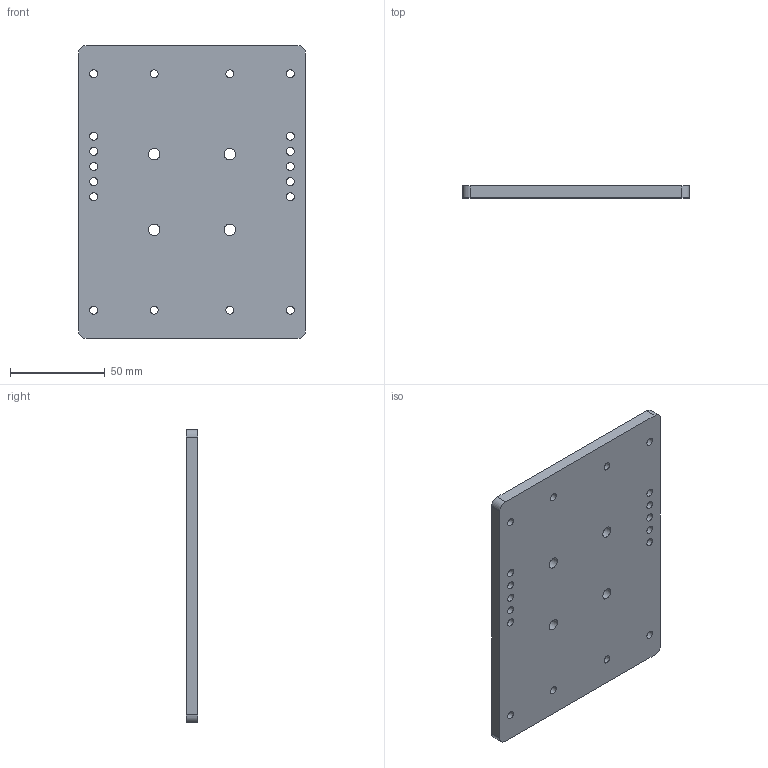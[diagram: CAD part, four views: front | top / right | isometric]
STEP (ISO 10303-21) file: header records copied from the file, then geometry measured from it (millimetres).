
FILE_DESCRIPTION(/* description */ (''),/* implementation_level */ '2;1');
FILE_NAME(/* name */ '/Users/davidflorian/Library/Mobile Documents/com~apple~CloudDocs/Vanderbilt/Papers/OTTO/Supplemental Material/3D-Printable-Components-STEP-Files/Floating-Head-Plate.step',/* time_stamp */ '2020-06-30T23:00:07-05:00',/* author */ (''),/* organization */ (''),/* preprocessor_version */ 'ST-DEVELOPER v18.1',/* originating_system */ 'Autodesk Translation Framework v9.3.0.1241',/* authorisation */ '');
FILE_SCHEMA (('AUTOMOTIVE_DESIGN { 1 0 10303 214 3 1 1 }'));
Length unit declared in the file: millimetre
Products named in the file (1): Quick-Change-Plate-without-locator
Bounding box: 120 x 6.2 x 155 mm (x, y, z)
Volume: 112987.5 mm3; surface area: 41755 mm2
Topology: 1 solids, 1 shells, 32 faces, 90 edges, 60 vertices
Faces by surface type: cylinder 26, plane 6
Full cylindrical faces by diameter (mm): 4.2 x18, 6 x4
Entity records: 1187 total; most frequent: DIRECTION 208, CARTESIAN_POINT 183, ORIENTED_EDGE 180, EDGE_CURVE 90, AXIS2_PLACEMENT_3D 85, EDGE_LOOP 76, VERTEX_POINT 60, CIRCLE 52
